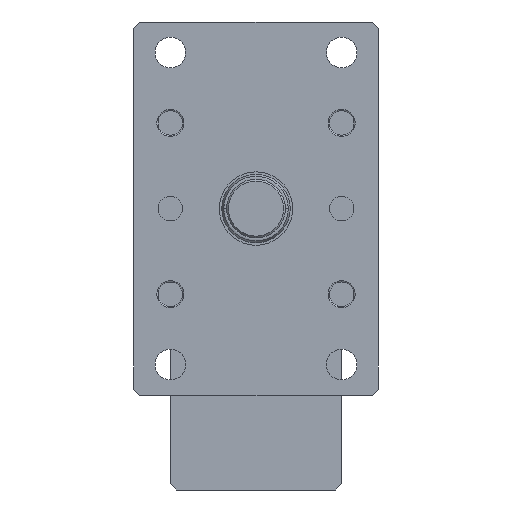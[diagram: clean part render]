
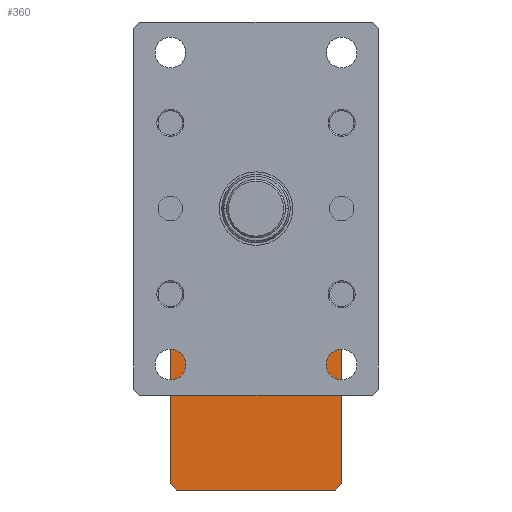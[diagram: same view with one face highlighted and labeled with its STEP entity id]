
A CAD part, left-side view. The second image highlights one B-rep face of the part: STEP entity #360.
In plain terms, the highlighted planar face has unit normal (-1, 0, 0).
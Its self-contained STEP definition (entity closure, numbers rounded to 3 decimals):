
#137 = LINE ( 'NONE', #7074, #7641 ) ;
#360 = ADVANCED_FACE ( 'NONE', ( #3726 ), #3027, .F. ) ;
#369 = CARTESIAN_POINT ( 'NONE',  ( 427.5, 70., -225. ) ) ;
#400 = LINE ( 'NONE', #2012, #7470 ) ;
#546 = VERTEX_POINT ( 'NONE', #7487 ) ;
#566 = ORIENTED_EDGE ( 'NONE', *, *, #3850, .F. ) ;
#1264 = DIRECTION ( 'NONE',  ( 0., 1., 0. ) ) ;
#1268 = VECTOR ( 'NONE', #5904, 1000. ) ;
#1440 = CARTESIAN_POINT ( 'NONE',  ( 427.5, 70., -230. ) ) ;
#1495 = LINE ( 'NONE', #6599, #1268 ) ;
#1879 = VERTEX_POINT ( 'NONE', #5507 ) ;
#2012 = CARTESIAN_POINT ( 'NONE',  ( 427.5, -70., -95. ) ) ;
#2016 = EDGE_CURVE ( 'NONE', #5197, #1879, #4055, .T. ) ;
#2246 = VECTOR ( 'NONE', #7565, 1000. ) ;
#2951 = DIRECTION ( 'NONE',  ( 0., 0., 1. ) ) ;
#2956 = VERTEX_POINT ( 'NONE', #5324 ) ;
#3012 = CARTESIAN_POINT ( 'NONE',  ( 427.5, -70., -95. ) ) ;
#3027 = PLANE ( 'NONE',  #4908 ) ;
#3111 = EDGE_CURVE ( 'NONE', #5197, #8297, #4371, .T. ) ;
#3349 = DIRECTION ( 'NONE',  ( 0., 1., 0. ) ) ;
#3407 = CARTESIAN_POINT ( 'NONE',  ( 427.5, 70., -95. ) ) ;
#3620 = EDGE_LOOP ( 'NONE', ( #6305, #4539, #8290, #6308, #8878, #7292, #566, #5382 ) ) ;
#3714 = DIRECTION ( 'NONE',  ( 1., 0., 0. ) ) ;
#3726 = FACE_OUTER_BOUND ( 'NONE', #3620, .T. ) ;
#3850 = EDGE_CURVE ( 'NONE', #2956, #1879, #4083, .T. ) ;
#3957 = CARTESIAN_POINT ( 'NONE',  ( 427.5, 70., -230. ) ) ;
#4055 = LINE ( 'NONE', #4128, #2246 ) ;
#4083 = LINE ( 'NONE', #3957, #5482 ) ;
#4128 = CARTESIAN_POINT ( 'NONE',  ( 427.5, 65., -230. ) ) ;
#4371 = LINE ( 'NONE', #1440, #5964 ) ;
#4379 = VERTEX_POINT ( 'NONE', #3012 ) ;
#4488 = VECTOR ( 'NONE', #8012, 1000. ) ;
#4539 = ORIENTED_EDGE ( 'NONE', *, *, #8281, .T. ) ;
#4661 = VERTEX_POINT ( 'NONE', #6110 ) ;
#4663 = EDGE_CURVE ( 'NONE', #546, #5212, #6342, .T. ) ;
#4908 = AXIS2_PLACEMENT_3D ( 'NONE', #8498, #3714, #8524 ) ;
#5197 = VERTEX_POINT ( 'NONE', #369 ) ;
#5212 = VERTEX_POINT ( 'NONE', #7226 ) ;
#5324 = CARTESIAN_POINT ( 'NONE',  ( 427.5, -65., -230. ) ) ;
#5382 = ORIENTED_EDGE ( 'NONE', *, *, #7858, .T. ) ;
#5482 = VECTOR ( 'NONE', #1264, 1000. ) ;
#5507 = CARTESIAN_POINT ( 'NONE',  ( 427.5, 65., -230. ) ) ;
#5866 = EDGE_CURVE ( 'NONE', #4661, #4379, #137, .T. ) ;
#5904 = DIRECTION ( 'NONE',  ( 0., -0.707, 0.707 ) ) ;
#5964 = VECTOR ( 'NONE', #6238, 1000. ) ;
#6110 = CARTESIAN_POINT ( 'NONE',  ( 427.5, -70., -225. ) ) ;
#6238 = DIRECTION ( 'NONE',  ( 0., 0., 1. ) ) ;
#6305 = ORIENTED_EDGE ( 'NONE', *, *, #5866, .T. ) ;
#6308 = ORIENTED_EDGE ( 'NONE', *, *, #8169, .T. ) ;
#6342 = LINE ( 'NONE', #6795, #7930 ) ;
#6599 = CARTESIAN_POINT ( 'NONE',  ( 427.5, -65., -230. ) ) ;
#6732 = CARTESIAN_POINT ( 'NONE',  ( 427.5, 70., -95. ) ) ;
#6795 = CARTESIAN_POINT ( 'NONE',  ( 427.5, 70., -90. ) ) ;
#7074 = CARTESIAN_POINT ( 'NONE',  ( 427.5, -70., -230. ) ) ;
#7226 = CARTESIAN_POINT ( 'NONE',  ( 427.5, 65., -90. ) ) ;
#7292 = ORIENTED_EDGE ( 'NONE', *, *, #2016, .T. ) ;
#7470 = VECTOR ( 'NONE', #8190, 1000. ) ;
#7487 = CARTESIAN_POINT ( 'NONE',  ( 427.5, -65., -90. ) ) ;
#7565 = DIRECTION ( 'NONE',  ( 0., -0.707, -0.707 ) ) ;
#7641 = VECTOR ( 'NONE', #2951, 1000. ) ;
#7858 = EDGE_CURVE ( 'NONE', #2956, #4661, #1495, .T. ) ;
#7930 = VECTOR ( 'NONE', #3349, 1000. ) ;
#8012 = DIRECTION ( 'NONE',  ( 0., 0.707, -0.707 ) ) ;
#8135 = LINE ( 'NONE', #6732, #4488 ) ;
#8169 = EDGE_CURVE ( 'NONE', #5212, #8297, #8135, .T. ) ;
#8190 = DIRECTION ( 'NONE',  ( 0., 0.707, 0.707 ) ) ;
#8281 = EDGE_CURVE ( 'NONE', #4379, #546, #400, .T. ) ;
#8290 = ORIENTED_EDGE ( 'NONE', *, *, #4663, .T. ) ;
#8297 = VERTEX_POINT ( 'NONE', #3407 ) ;
#8498 = CARTESIAN_POINT ( 'NONE',  ( 427.5, 70., -230. ) ) ;
#8524 = DIRECTION ( 'NONE',  ( 0., 1., 0. ) ) ;
#8878 = ORIENTED_EDGE ( 'NONE', *, *, #3111, .F. ) ;
